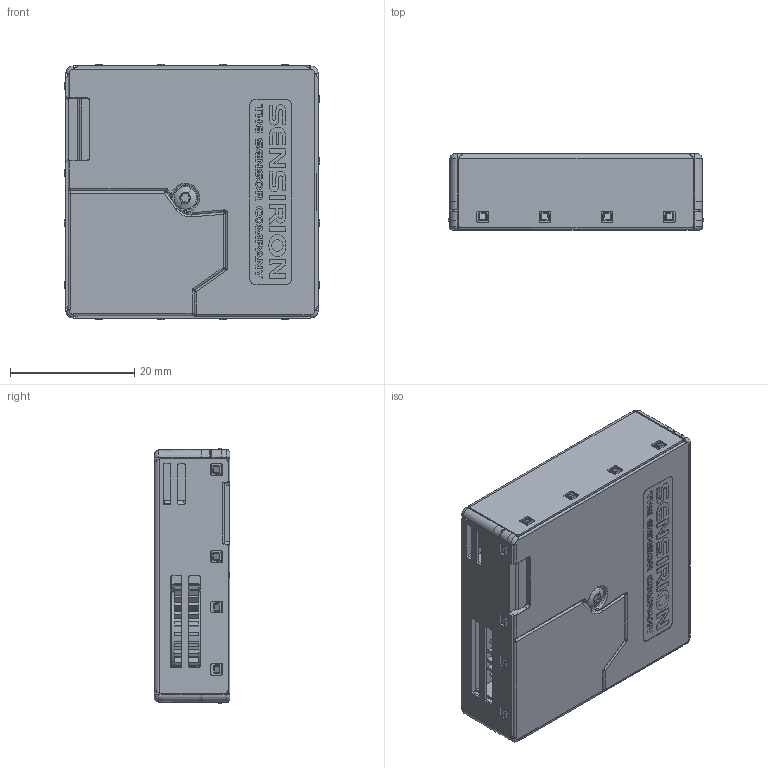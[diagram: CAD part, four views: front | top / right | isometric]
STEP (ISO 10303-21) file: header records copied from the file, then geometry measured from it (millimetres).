
FILE_DESCRIPTION (( 'STEP AP214' ), '1' );
FILE_NAME ('128692_2018-10-31.STEP', '2018-10-31T15:14:54', ( '' ), ( '' ), 'SwSTEP 2.0', 'SolidWorks 2017', '' );
FILE_SCHEMA (( 'AUTOMOTIVE_DESIGN' ));
Length unit declared in the file: millimetre
Products named in the file (1): 128692_2018-10-31
Bounding box: 41.2 x 12.2 x 41.2 mm (x, y, z)
Volume: 19128.9 mm3; surface area: 7635.9 mm2
Topology: 1 solids, 5 shells, 2103 faces, 5589 edges, 3494 vertices
Faces by surface type: plane 1222, cylinder 543, bspline 238, sphere 49, cone 27, torus 24
Entity records: 90466 total; most frequent: CARTESIAN_POINT 18721, ORIENTED_EDGE 11092, DIRECTION 9122, EDGE_CURVE 5546, VECTOR 3728, LINE 3728, VERTEX_POINT 3494, AXIS2_PLACEMENT_3D 2697
